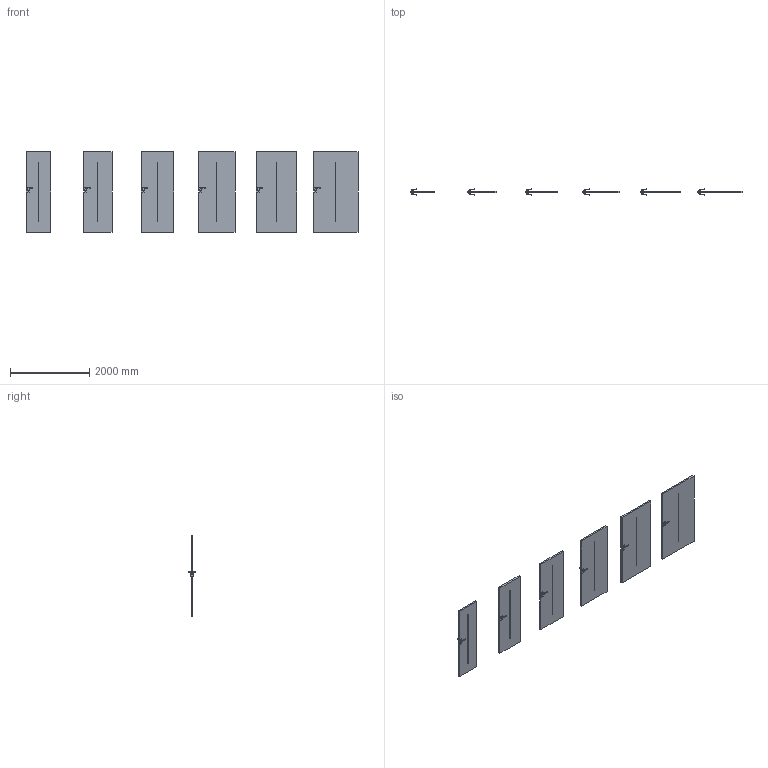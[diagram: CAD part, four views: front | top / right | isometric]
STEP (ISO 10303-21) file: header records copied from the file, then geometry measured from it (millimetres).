
FILE_DESCRIPTION(/* description */ (''),/* implementation_level */ '2;1');
FILE_NAME(/* name */ '049731_A_2-Skrzydło DESIRE model 6_ polska norma _PN__ bezprzylgowe..stp',/* time_stamp */ '2024-02-29T11:51:43+01:00',/* author */ (''),/* organization */ (''),/* preprocessor_version */ 'ST-DEVELOPER v16',/* originating_system */ 'SIEMENS PLM Software NX 11.0',/* authorisation */ '');
FILE_SCHEMA (('AUTOMOTIVE_DESIGN { 1 0 10303 214 3 1 1 1 }'));
Length unit declared in the file: millimetre
Products named in the file (1): bkni4F842FC9m42u
Bounding box: 8368 x 153.27 x 2017 mm (x, y, z)
Volume: 413467946.7 mm3; surface area: 22996301.1 mm2
Topology: 42 solids, 42 shells, 1176 faces, 2712 edges, 1512 vertices
Faces by surface type: plane 504, cylinder 312, bspline 192, sphere 168
Entity records: 38596 total; most frequent: CARTESIAN_POINT 13657, ORIENTED_EDGE 5088, DIRECTION 4970, EDGE_CURVE 2544, AXIS2_PLACEMENT_3D 1801, VERTEX_POINT 1512, LINE 1368, VECTOR 1368
